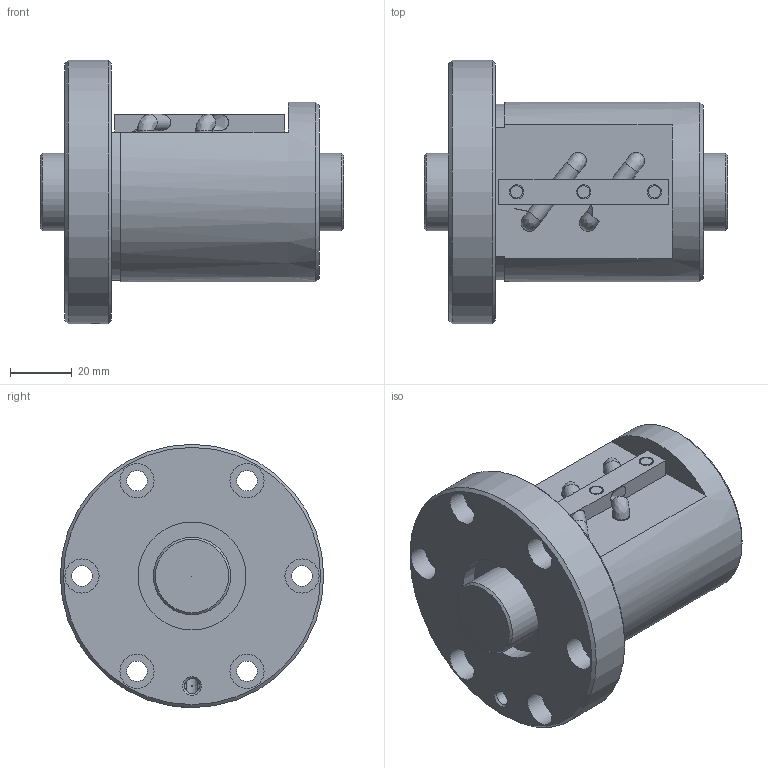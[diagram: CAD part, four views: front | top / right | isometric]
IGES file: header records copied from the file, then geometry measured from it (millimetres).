
Start section: Data from Parasolid IGES Translator 26.0.171, Copyright(c) 2006 Siemens PLM Software. All Rights Reserved.
Global section: file name: BIF2508V-5RRG0+98LC0_000.igs; native system: By Siemens PLM Incorporated; preprocessor: XPlus GENERIC/IGES 26.0.171; author: Noname; organization: Noname; date: 20240715.081746; units: millimetre
Bounding box: 98 x 85 x 85 mm (x, y, z)
Surface area: 45688 mm2 (no closed solid volume)
Topology: 0 solids, 0 shells, 99 faces, 443 edges, 404 vertices
Faces by surface type: revolution 58, extrusion 41
